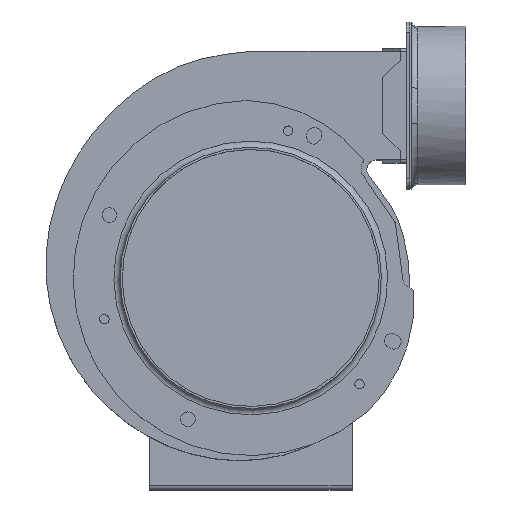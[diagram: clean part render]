
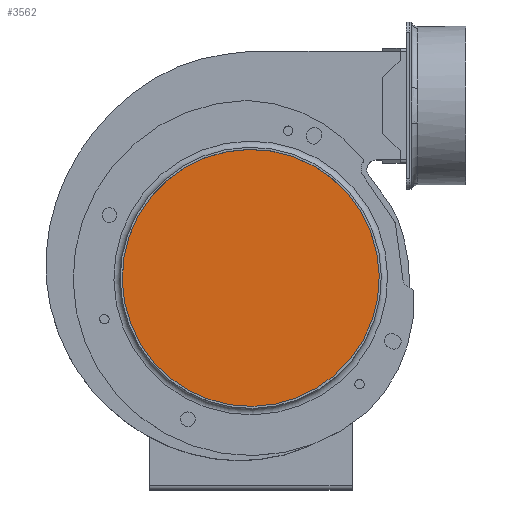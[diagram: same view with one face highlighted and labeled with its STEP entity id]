
A CAD part, top view. The second image highlights one B-rep face of the part: STEP entity #3562.
In plain terms, the highlighted planar face has unit normal (0, 0, 1) as drawn and (-1, 0, 0) by its records, which use the part's own axes.
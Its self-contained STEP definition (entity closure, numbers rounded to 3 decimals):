
#137=CIRCLE('',#3896,2.25);
#138=CIRCLE('',#3897,2.25);
#139=CIRCLE('',#3898,2.25);
#140=CIRCLE('',#3899,3.5);
#141=CIRCLE('',#3900,3.5);
#142=CIRCLE('',#3901,74.283);
#143=CIRCLE('',#3902,85.);
#144=CIRCLE('',#3903,74.283);
#145=CIRCLE('',#3904,2.);
#146=CIRCLE('',#3905,6.2);
#147=CIRCLE('',#3906,2.);
#148=CIRCLE('',#3907,6.2);
#149=CIRCLE('',#3908,2.);
#150=CIRCLE('',#3909,3.5);
#151=CIRCLE('',#3910,3.5);
#152=CIRCLE('',#3911,3.5);
#153=CIRCLE('',#3912,3.5);
#415=PLANE('',#3895);
#529=LINE('',#5919,#794);
#530=LINE('',#5923,#795);
#531=LINE('',#5928,#796);
#532=LINE('',#5933,#797);
#533=LINE('',#5936,#798);
#534=LINE('',#5941,#799);
#794=VECTOR('',#4482,1000.);
#795=VECTOR('',#4485,1000.);
#796=VECTOR('',#4490,1000.);
#797=VECTOR('',#4493,1000.);
#798=VECTOR('',#4496,1000.);
#799=VECTOR('',#4499,1000.);
#1230=ORIENTED_EDGE('',*,*,#2117,.F.);
#1231=ORIENTED_EDGE('',*,*,#2118,.F.);
#1232=ORIENTED_EDGE('',*,*,#2119,.F.);
#1233=ORIENTED_EDGE('',*,*,#2120,.F.);
#1234=ORIENTED_EDGE('',*,*,#2121,.F.);
#1235=ORIENTED_EDGE('',*,*,#2122,.F.);
#1236=ORIENTED_EDGE('',*,*,#2123,.T.);
#1237=ORIENTED_EDGE('',*,*,#2124,.F.);
#1238=ORIENTED_EDGE('',*,*,#2125,.F.);
#1239=ORIENTED_EDGE('',*,*,#2126,.F.);
#1240=ORIENTED_EDGE('',*,*,#2127,.F.);
#1241=ORIENTED_EDGE('',*,*,#2128,.F.);
#1242=ORIENTED_EDGE('',*,*,#2129,.F.);
#1243=ORIENTED_EDGE('',*,*,#2130,.F.);
#1244=ORIENTED_EDGE('',*,*,#2131,.F.);
#1245=ORIENTED_EDGE('',*,*,#2132,.T.);
#1246=ORIENTED_EDGE('',*,*,#2133,.T.);
#1247=ORIENTED_EDGE('',*,*,#2134,.T.);
#1248=ORIENTED_EDGE('',*,*,#2135,.T.);
#1249=ORIENTED_EDGE('',*,*,#2136,.T.);
#1250=ORIENTED_EDGE('',*,*,#2137,.T.);
#1251=ORIENTED_EDGE('',*,*,#2138,.T.);
#1252=ORIENTED_EDGE('',*,*,#2139,.T.);
#2117=EDGE_CURVE('',#2577,#2577,#137,.T.);
#2118=EDGE_CURVE('',#2578,#2578,#138,.T.);
#2119=EDGE_CURVE('',#2579,#2579,#139,.T.);
#2120=EDGE_CURVE('',#2580,#2580,#140,.T.);
#2121=EDGE_CURVE('',#2581,#2581,#141,.T.);
#2122=EDGE_CURVE('',#2582,#2583,#142,.T.);
#2123=EDGE_CURVE('',#2582,#2584,#143,.T.);
#2124=EDGE_CURVE('',#2585,#2584,#144,.T.);
#2125=EDGE_CURVE('',#2586,#2585,#145,.T.);
#2126=EDGE_CURVE('',#2587,#2586,#146,.T.);
#2127=EDGE_CURVE('',#2588,#2587,#529,.T.);
#2128=EDGE_CURVE('',#2589,#2588,#147,.T.);
#2129=EDGE_CURVE('',#2590,#2589,#530,.T.);
#2130=EDGE_CURVE('',#2591,#2590,#148,.T.);
#2131=EDGE_CURVE('',#2583,#2591,#149,.T.);
#2132=EDGE_CURVE('',#2592,#2593,#531,.T.);
#2133=EDGE_CURVE('',#2593,#2594,#150,.T.);
#2134=EDGE_CURVE('',#2594,#2595,#532,.T.);
#2135=EDGE_CURVE('',#2595,#2592,#151,.T.);
#2136=EDGE_CURVE('',#2596,#2597,#533,.T.);
#2137=EDGE_CURVE('',#2597,#2598,#152,.T.);
#2138=EDGE_CURVE('',#2598,#2599,#534,.T.);
#2139=EDGE_CURVE('',#2599,#2596,#153,.T.);
#2577=VERTEX_POINT('',#5899);
#2578=VERTEX_POINT('',#5901);
#2579=VERTEX_POINT('',#5903);
#2580=VERTEX_POINT('',#5905);
#2581=VERTEX_POINT('',#5907);
#2582=VERTEX_POINT('',#5909);
#2583=VERTEX_POINT('',#5910);
#2584=VERTEX_POINT('',#5912);
#2585=VERTEX_POINT('',#5914);
#2586=VERTEX_POINT('',#5916);
#2587=VERTEX_POINT('',#5918);
#2588=VERTEX_POINT('',#5920);
#2589=VERTEX_POINT('',#5922);
#2590=VERTEX_POINT('',#5924);
#2591=VERTEX_POINT('',#5926);
#2592=VERTEX_POINT('',#5929);
#2593=VERTEX_POINT('',#5930);
#2594=VERTEX_POINT('',#5932);
#2595=VERTEX_POINT('',#5934);
#2596=VERTEX_POINT('',#5937);
#2597=VERTEX_POINT('',#5938);
#2598=VERTEX_POINT('',#5940);
#2599=VERTEX_POINT('',#5942);
#2932=EDGE_LOOP('',(#1230));
#2933=EDGE_LOOP('',(#1231));
#2934=EDGE_LOOP('',(#1232));
#2935=EDGE_LOOP('',(#1233));
#2936=EDGE_LOOP('',(#1234));
#2937=EDGE_LOOP('',(#1235,#1236,#1237,#1238,#1239,#1240,#1241,#1242,#1243,
#1244));
#2938=EDGE_LOOP('',(#1245,#1246,#1247,#1248));
#2939=EDGE_LOOP('',(#1249,#1250,#1251,#1252));
#3255=FACE_BOUND('',#2932,.T.);
#3256=FACE_BOUND('',#2933,.T.);
#3257=FACE_BOUND('',#2934,.T.);
#3258=FACE_BOUND('',#2935,.T.);
#3259=FACE_BOUND('',#2936,.T.);
#3260=FACE_BOUND('',#2937,.T.);
#3261=FACE_BOUND('',#2938,.T.);
#3262=FACE_BOUND('',#2939,.T.);
#3562=ADVANCED_FACE('',(#3255,#3256,#3257,#3258,#3259,#3260,#3261,#3262),
#415,.T.);
#3895=AXIS2_PLACEMENT_3D('',#5897,#4460,#4461);
#3896=AXIS2_PLACEMENT_3D('',#5898,#4462,#4463);
#3897=AXIS2_PLACEMENT_3D('',#5900,#4464,#4465);
#3898=AXIS2_PLACEMENT_3D('',#5902,#4466,#4467);
#3899=AXIS2_PLACEMENT_3D('',#5904,#4468,#4469);
#3900=AXIS2_PLACEMENT_3D('',#5906,#4470,#4471);
#3901=AXIS2_PLACEMENT_3D('',#5908,#4472,#4473);
#3902=AXIS2_PLACEMENT_3D('',#5911,#4474,#4475);
#3903=AXIS2_PLACEMENT_3D('',#5913,#4476,#4477);
#3904=AXIS2_PLACEMENT_3D('',#5915,#4478,#4479);
#3905=AXIS2_PLACEMENT_3D('',#5917,#4480,#4481);
#3906=AXIS2_PLACEMENT_3D('',#5921,#4483,#4484);
#3907=AXIS2_PLACEMENT_3D('',#5925,#4486,#4487);
#3908=AXIS2_PLACEMENT_3D('',#5927,#4488,#4489);
#3909=AXIS2_PLACEMENT_3D('',#5931,#4491,#4492);
#3910=AXIS2_PLACEMENT_3D('',#5935,#4494,#4495);
#3911=AXIS2_PLACEMENT_3D('',#5939,#4497,#4498);
#3912=AXIS2_PLACEMENT_3D('',#5943,#4500,#4501);
#4460=DIRECTION('',(-1.,0.,0.));
#4461=DIRECTION('',(0.,0.,1.));
#4462=DIRECTION('',(-1.,0.,0.));
#4463=DIRECTION('',(0.,-1.,0.));
#4464=DIRECTION('',(-1.,0.,0.));
#4465=DIRECTION('',(0.,-1.,0.));
#4466=DIRECTION('',(-1.,0.,0.));
#4467=DIRECTION('',(0.,-1.,0.));
#4468=DIRECTION('',(-1.,0.,0.));
#4469=DIRECTION('',(0.,-1.,0.));
#4470=DIRECTION('',(-1.,0.,0.));
#4471=DIRECTION('',(0.,-1.,0.));
#4472=DIRECTION('',(1.,0.,0.));
#4473=DIRECTION('',(0.,-1.,0.));
#4474=DIRECTION('',(-1.,0.,0.));
#4475=DIRECTION('',(0.,0.,1.));
#4476=DIRECTION('',(1.,0.,0.));
#4477=DIRECTION('',(0.,-1.,0.));
#4478=DIRECTION('',(1.,0.,0.));
#4479=DIRECTION('',(0.,-1.,0.));
#4480=DIRECTION('',(-1.,0.,0.));
#4481=DIRECTION('',(0.,-1.,0.));
#4482=DIRECTION('',(0.,-0.973,-0.231));
#4483=DIRECTION('',(1.,0.,0.));
#4484=DIRECTION('',(0.,-1.,0.));
#4485=DIRECTION('',(0.,-0.973,0.231));
#4486=DIRECTION('',(-1.,0.,0.));
#4487=DIRECTION('',(0.,-1.,0.));
#4488=DIRECTION('',(1.,0.,0.));
#4489=DIRECTION('',(0.,-1.,0.));
#4490=DIRECTION('',(0.,-0.707,-0.707));
#4491=DIRECTION('',(1.,0.,0.));
#4492=DIRECTION('',(0.,1.,0.));
#4493=DIRECTION('',(0.,0.707,0.707));
#4494=DIRECTION('',(1.,0.,0.));
#4495=DIRECTION('',(0.,-1.,0.));
#4496=DIRECTION('',(0.,0.707,-0.707));
#4497=DIRECTION('',(1.,0.,0.));
#4498=DIRECTION('',(0.,-1.,0.));
#4499=DIRECTION('',(0.,-0.707,0.707));
#4500=DIRECTION('',(1.,0.,0.));
#4501=DIRECTION('',(0.,1.,0.));
#5897=CARTESIAN_POINT('',(145.941,85.,0.));
#5898=CARTESIAN_POINT('',(145.941,-66.086,30.418));
#5899=CARTESIAN_POINT('',(145.941,-68.336,30.418));
#5900=CARTESIAN_POINT('',(145.941,6.7,-72.441));
#5901=CARTESIAN_POINT('',(145.941,4.45,-72.441));
#5902=CARTESIAN_POINT('',(145.941,59.385,42.023));
#5903=CARTESIAN_POINT('',(145.941,57.135,42.023));
#5904=CARTESIAN_POINT('',(145.941,-52.326,-52.326));
#5905=CARTESIAN_POINT('',(145.941,-55.826,-52.326));
#5906=CARTESIAN_POINT('',(145.941,52.326,-52.326));
#5907=CARTESIAN_POINT('',(145.941,48.826,-52.326));
#5908=CARTESIAN_POINT('',(145.941,11.615,-0.273));
#5909=CARTESIAN_POINT('',(145.941,79.969,28.808));
#5910=CARTESIAN_POINT('',(145.941,34.366,70.44));
#5911=CARTESIAN_POINT('',(145.941,0.,0.));
#5912=CARTESIAN_POINT('',(145.941,-79.969,28.808));
#5913=CARTESIAN_POINT('',(145.941,-11.615,-0.273));
#5914=CARTESIAN_POINT('',(145.941,-34.366,70.44));
#5915=CARTESIAN_POINT('',(145.941,-33.753,68.536));
#5916=CARTESIAN_POINT('',(145.941,-32.212,69.811));
#5917=CARTESIAN_POINT('',(145.941,-27.434,73.762));
#5918=CARTESIAN_POINT('',(145.941,-27.422,67.562));
#5919=CARTESIAN_POINT('',(145.941,-0.462,73.957));
#5920=CARTESIAN_POINT('',(145.941,-0.462,73.957));
#5921=CARTESIAN_POINT('',(145.941,0.,72.011));
#5922=CARTESIAN_POINT('',(145.941,0.462,73.957));
#5923=CARTESIAN_POINT('',(145.941,0.462,73.957));
#5924=CARTESIAN_POINT('',(145.941,27.422,67.562));
#5925=CARTESIAN_POINT('',(145.941,27.434,73.762));
#5926=CARTESIAN_POINT('',(145.941,32.212,69.811));
#5927=CARTESIAN_POINT('',(145.941,33.753,68.536));
#5928=CARTESIAN_POINT('',(145.941,49.851,54.801));
#5929=CARTESIAN_POINT('',(145.941,50.558,55.508));
#5930=CARTESIAN_POINT('',(145.941,49.851,54.801));
#5931=CARTESIAN_POINT('',(145.941,52.326,52.326));
#5932=CARTESIAN_POINT('',(145.941,54.801,49.851));
#5933=CARTESIAN_POINT('',(145.941,54.801,49.851));
#5934=CARTESIAN_POINT('',(145.941,55.508,50.558));
#5935=CARTESIAN_POINT('',(145.941,53.033,53.033));
#5936=CARTESIAN_POINT('',(145.941,-54.801,49.851));
#5937=CARTESIAN_POINT('',(145.941,-55.508,50.558));
#5938=CARTESIAN_POINT('',(145.941,-54.801,49.851));
#5939=CARTESIAN_POINT('',(145.941,-52.326,52.326));
#5940=CARTESIAN_POINT('',(145.941,-49.851,54.801));
#5941=CARTESIAN_POINT('',(145.941,-49.851,54.801));
#5942=CARTESIAN_POINT('',(145.941,-50.558,55.508));
#5943=CARTESIAN_POINT('',(145.941,-53.033,53.033));
